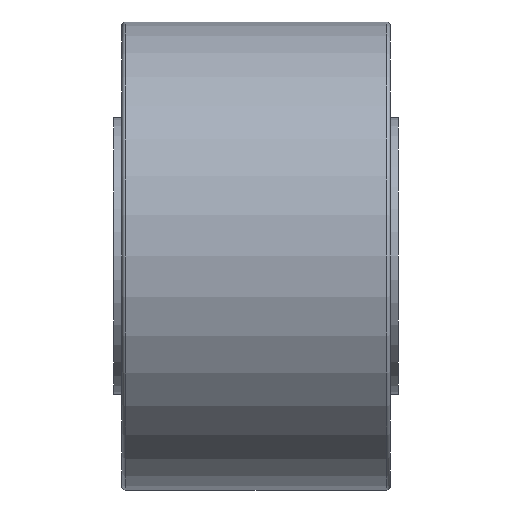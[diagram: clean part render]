
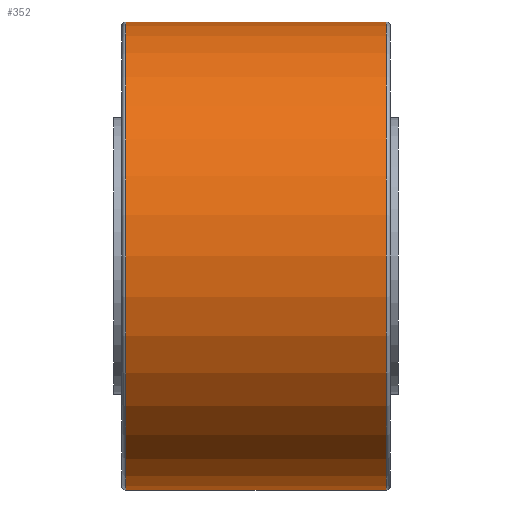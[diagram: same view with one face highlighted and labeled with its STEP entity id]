
A CAD part, front view. The second image highlights one B-rep face of the part: STEP entity #352.
In plain terms, the highlighted cylindrical face has radius 57.5 mm (diameter 115 mm), a partial arc.
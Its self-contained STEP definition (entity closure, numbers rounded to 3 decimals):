
#329 = EDGE_CURVE ( 'NONE', #684, #686, #1326, .T. ) ;
#330 = EDGE_CURVE ( 'NONE', #687, #679, #1288, .T. ) ;
#345 = EDGE_CURVE ( 'NONE', #679, #686, #1354, .T. ) ;
#350 = ORIENTED_EDGE ( 'NONE', *, *, #330, .T. ) ;
#351 = ORIENTED_EDGE ( 'NONE', *, *, #353, .T. ) ;
#352 = ADVANCED_FACE ( 'NONE', ( #1353 ), #1318, .T. ) ;
#353 = EDGE_CURVE ( 'NONE', #684, #687, #1388, .T. ) ;
#366 = ORIENTED_EDGE ( 'NONE', *, *, #329, .F. ) ;
#371 = EDGE_LOOP ( 'NONE', ( #366, #351, #350, #402 ) ) ;
#402 = ORIENTED_EDGE ( 'NONE', *, *, #345, .T. ) ;
#679 = VERTEX_POINT ( 'NONE', #1820 ) ;
#684 = VERTEX_POINT ( 'NONE', #1845 ) ;
#686 = VERTEX_POINT ( 'NONE', #1843 ) ;
#687 = VERTEX_POINT ( 'NONE', #1842 ) ;
#1288 = LINE ( 'NONE', #1314, #1374 ) ;
#1314 = CARTESIAN_POINT ( 'NONE',  ( -41.122, 0., 57.5 ) ) ;
#1316 = DIRECTION ( 'NONE',  ( -1., 0., 0. ) ) ;
#1317 = VECTOR ( 'NONE', #1316, 1000. ) ;
#1318 = CYLINDRICAL_SURFACE ( 'NONE', #1361, 57.5 ) ;
#1325 = CARTESIAN_POINT ( 'NONE',  ( -41.122, 0., -57.5 ) ) ;
#1326 = LINE ( 'NONE', #1325, #1317 ) ;
#1349 = DIRECTION ( 'NONE',  ( 0., 0., -1. ) ) ;
#1350 = DIRECTION ( 'NONE',  ( 1., 0., 0. ) ) ;
#1351 = CARTESIAN_POINT ( 'NONE',  ( -32., 0., 0. ) ) ;
#1352 = AXIS2_PLACEMENT_3D ( 'NONE', #1351, #1350, #1349 ) ;
#1353 = FACE_OUTER_BOUND ( 'NONE', #371, .T. ) ;
#1354 = CIRCLE ( 'NONE', #1352, 57.5 ) ;
#1361 = AXIS2_PLACEMENT_3D ( 'NONE', #1394, #1393, #1392 ) ;
#1365 = AXIS2_PLACEMENT_3D ( 'NONE', #1387, #1386, #1385 ) ;
#1373 = DIRECTION ( 'NONE',  ( -1., 0., 0. ) ) ;
#1374 = VECTOR ( 'NONE', #1373, 1000. ) ;
#1385 = DIRECTION ( 'NONE',  ( 0., 0., 1. ) ) ;
#1386 = DIRECTION ( 'NONE',  ( -1., 0., 0. ) ) ;
#1387 = CARTESIAN_POINT ( 'NONE',  ( 32., 0., 0. ) ) ;
#1388 = CIRCLE ( 'NONE', #1365, 57.5 ) ;
#1392 = DIRECTION ( 'NONE',  ( 0., 0., 1. ) ) ;
#1393 = DIRECTION ( 'NONE',  ( -1., 0., 0. ) ) ;
#1394 = CARTESIAN_POINT ( 'NONE',  ( -41.122, 0., 0. ) ) ;
#1820 = CARTESIAN_POINT ( 'NONE',  ( -32., 0., 57.5 ) ) ;
#1842 = CARTESIAN_POINT ( 'NONE',  ( 32., 0., 57.5 ) ) ;
#1843 = CARTESIAN_POINT ( 'NONE',  ( -32., 0., -57.5 ) ) ;
#1845 = CARTESIAN_POINT ( 'NONE',  ( 32., 0., -57.5 ) ) ;
